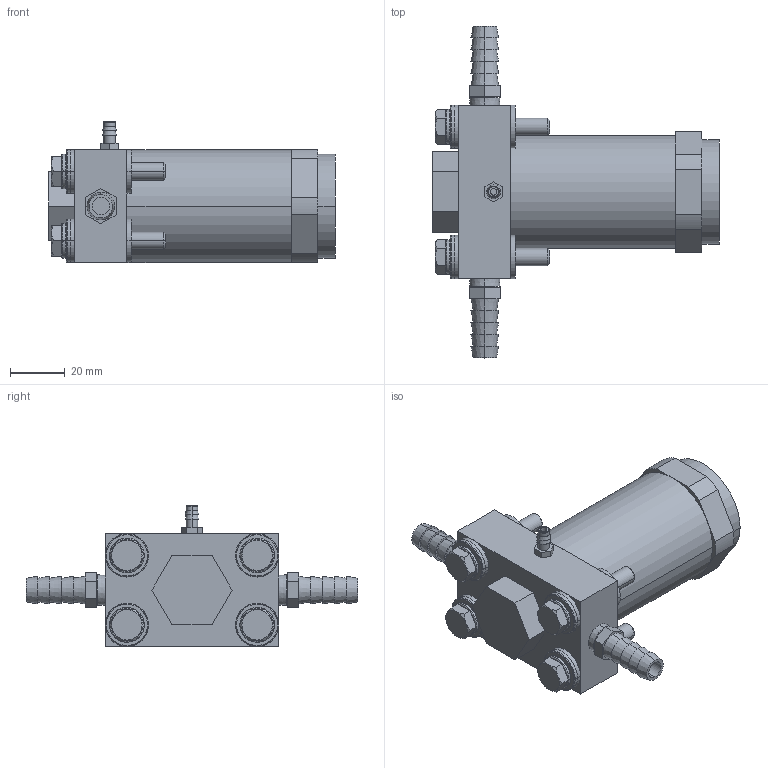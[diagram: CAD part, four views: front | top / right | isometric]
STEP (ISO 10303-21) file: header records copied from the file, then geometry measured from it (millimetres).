
FILE_DESCRIPTION((''),'2;1');
FILE_NAME('XK4_ASM','2017-08-24T',('jennifer.elliott'),('CenterLine (Windsor) Ltd - Automation Components Division'),'PRO/ENGINEER BY PARAMETRIC TECHNOLOGY CORPORATION, 2015030','PRO/ENGINEER BY PARAMETRIC TECHNOLOGY CORPORATION, 2015030','');
FILE_SCHEMA(('AUTOMOTIVE_DESIGN { 1 0 10303 214 1 1 1 1 }'));
Length unit declared in the file: inch
Products named in the file (30): PRT1449; PRT1450; PRT1451; PRT1452; PRT1453; PRT1454; PRT1455; PRT1456; PRT1457; PRT1458; PRT1459; PRT1460; PRT1461; PRT1462; ASM0017_ASM; PRT1463; PRT1464; PRT1465; PRT1466; PRT1467; PRT1468; PRT1469; PRT1470; PRT1471; PRT1472; PRT1473; PRT1474; PRT1475; PRT1476; XK4_ASM
Assembly tree (29 placements, depth 3):
  XK4_ASM
    PRT1449
    PRT1450
    PRT1451
    PRT1452
    PRT1453
    PRT1454
    PRT1455
    PRT1456
    PRT1457
    PRT1458
    ASM0017_ASM
      PRT1459
      PRT1460
      PRT1461
      PRT1462
    PRT1463
    PRT1464
    PRT1465
    PRT1466
    PRT1467
    PRT1468
    PRT1469
    PRT1470
    PRT1471
    PRT1472
    PRT1473
    PRT1474
    PRT1475
    PRT1476
Bounding box: 104.78 x 121.41 x 51.59 mm (x, y, z)
Volume: 167837.9 mm3; surface area: 48220.8 mm2
Topology: 28 solids, 28 shells, 327 faces, 736 edges, 486 vertices
Faces by surface type: plane 147, cylinder 92, cone 60, torus 28
Entity records: 11515 total; most frequent: CARTESIAN_POINT 2149, DIRECTION 1786, ORIENTED_EDGE 1472, AXIS2_PLACEMENT_3D 748, EDGE_CURVE 736, VERTEX_POINT 486, EDGE_LOOP 378, CIRCLE 358
